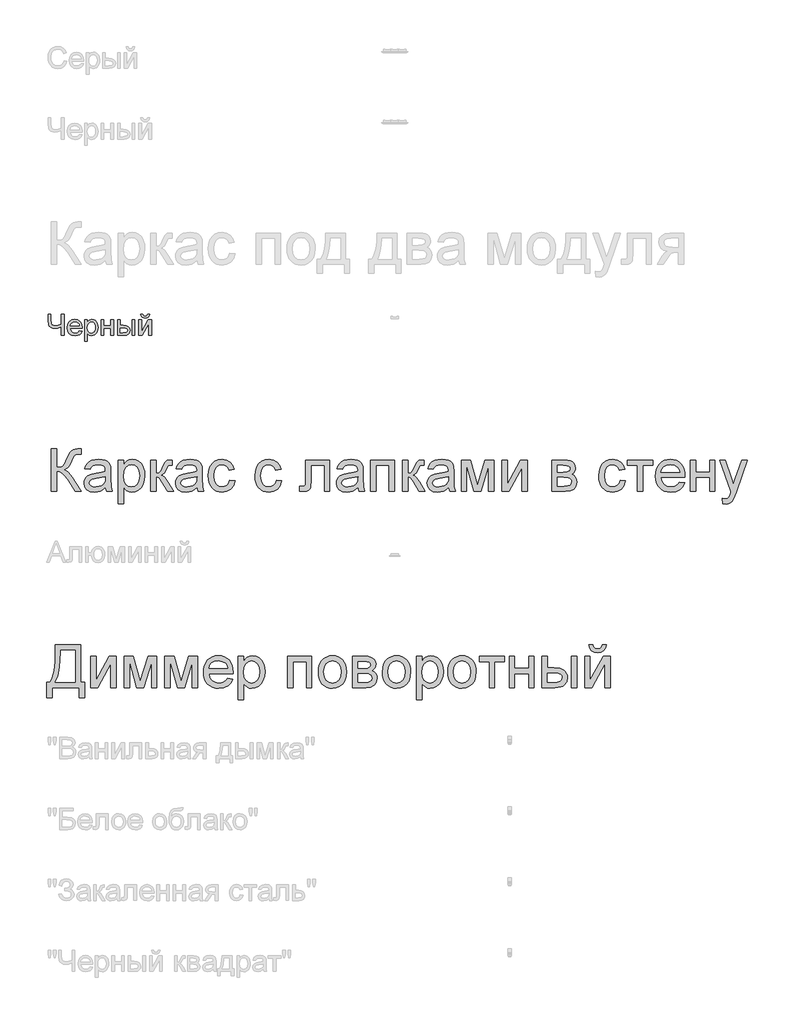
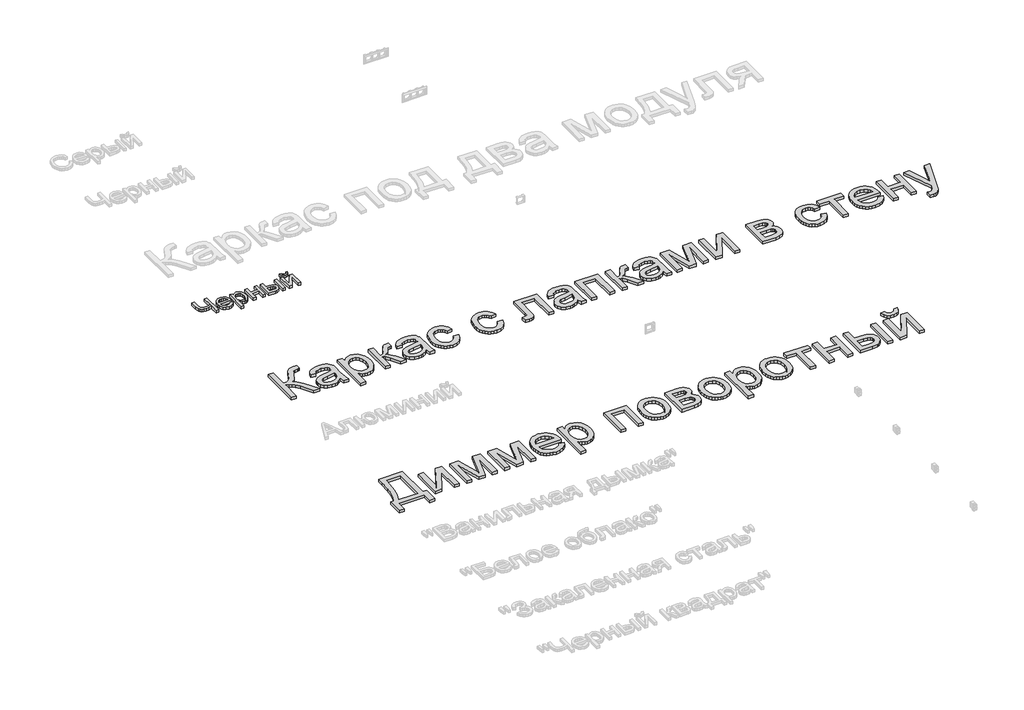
# One storey, part 36 of 168: 3 proxies.
"""IFC4 building model written with IfcOpenShell, lengths in millimetres."""

from ifc_helpers import new_model, si_unit, origin, origin_with_axes, place, context, project, spatial, polyline, outline, extrude, element, save

model = new_model("IFC4")

# Units and contexts
model_context = context("Model", 3, world=origin())
ifc_project = project(units=[si_unit("LENGTHUNIT", "METRE", prefix="MILLI")], contexts=[model_context])

# Site, building, storey
site = spatial("IfcSite", under=ifc_project)
building = spatial("IfcBuilding", under=site)
storey = spatial("IfcBuildingStorey", under=building, Name="Этаж 01", Elevation=0.0)

# Proxies
placement = place(None, origin())
element("IfcBuildingElementProxy", 1, Name="300 мм Arial 2", ObjectType="300 мм Arial 2", at=placement, inside=storey, context=model_context, shape_type="SweptSolid", body=[
    extrude(outline(polyline([(32899.0945017, -42181.2692868), (32936.765618, -42181.2692868), (32936.765618, -42313.1181939), (32962.2690373, -42310.6257934), (32978.8881064, -42303.1485918), (32992.3249963, -42285.5546354), (33008.2818778, -42252.7119703), (33029.0672106, -42210.5894818), (33039.0919949, -42199.1759429), (33052.6116582, -42189.7305727), (33068.6605103, -42183.3846083), (33086.2728608, -42181.2692868), (33110.9945309, -42181.7107452), (33110.9945309, -42219.3818615), (33102.6803978, -42219.1611323), (33094.3662647, -42218.9404031), (33077.1125991, -42221.2028774), (33064.9357051, -42227.9903002), (33054.4510682, -42242.2457275), (33042.5684798, -42266.7650625), (33027.9911557, -42297.2992681), (33015.8970351, -42314.0011107), (32989.8877781, -42329.5993073), (33004.4788977, -42335.807316), (33018.9688498, -42346.6322437), (33047.6452513, -42382.1328562), (33110.9945309, -42482.6382173), (33067.2901499, -42482.6382173), (33013.7265314, -42397.7310528), (32993.0423662, -42370.4985881), (32976.0186268, -42353.4012724), (32958.6086114, -42344.3789664), (32936.765618, -42341.3715311), (32936.765618, -42482.6382173), (32899.0945017, -42482.6382173), (32899.0945017, -42181.2692868)])), origin_with_axes(), (0.0, 0.0, 1.0), 20.0),
    extrude(outline(polyline([(33280.5145543, -42454.3848801), (33262.5159276, -42469.8175297), (33243.9838721, -42479.9158905), (33224.4953234, -42485.4893027), (33203.6272173, -42487.3471068), (33172.1457155, -42482.8773406), (33148.9231646, -42469.4680419), (33134.6033579, -42449.1057734), (33129.830089, -42423.7770981), (33131.6327108, -42408.1605074), (33137.0405761, -42393.9786564), (33145.3823004, -42381.8385506), (33155.9864989, -42372.3471951), (33182.3636379, -42359.9863601), (33214.9579827, -42354.3209774), (33253.4752276, -42348.361289), (33280.2938251, -42341.3715311), (33280.5145543, -42332.9838216), (33277.9209862, -42316.1716145), (33270.140282, -42305.1719428), (33252.7394636, -42297.0049625), (33228.4960401, -42294.2826358), (33206.0552384, -42296.0944546), (33190.3834654, -42301.5299111), (33179.6964935, -42311.5822866), (33172.2100949, -42327.2448625), (33134.5389786, -42322.535973), (33141.078081, -42301.9345812), (33150.836151, -42285.7477735), (33164.7236963, -42273.3685443), (33183.6512249, -42264.1898885), (33206.8001995, -42258.5061117), (33233.3520825, -42256.6115194), (33258.8187136, -42258.2853825), (33279.0062381, -42263.3069718), (33294.2273556, -42270.8577497), (33304.7947659, -42280.1191789), (33311.8029179, -42291.569506), (33316.3462606, -42305.6869776), (33318.1856706, -42338.6492044), (33318.1856706, -42385.5173706), (33320.0986569, -42450.9635775), (33327.6034496, -42482.6382173), (33289.9323333, -42482.6382173), (33280.5145543, -42454.3848801)]), holes=[polyline([(33280.5145543, -42379.0426474), (33219.7404487, -42390.5941421), (33187.3300449, -42396.7009832), (33172.6515533, -42406.6337971), (33167.5012053, -42421.1283477), (33170.3063056, -42432.3303544), (33178.7216062, -42441.5090102), (33192.5631663, -42447.6342454), (33211.6470448, -42449.6759905), (33231.8805545, -42447.4227133), (33249.7596195, -42440.6628816), (33264.2541701, -42430.7024766), (33274.3341367, -42418.8474793), (33278.803903, -42406.6337971), (33280.2938251, -42389.7112253), (33280.5145543, -42379.0426474)])]), origin_with_axes(), (0.0, 0.0, 1.0), 20.0),
    extrude(outline(polyline([(33369.9834555, -42567.398229), (33369.9834555, -42261.320409), (33407.6545718, -42261.320409), (33407.6545718, -42298.2557613), (33419.9418304, -42280.0364055), (33433.700617, -42267.0225799), (33449.740272, -42259.2142846), (33468.8701358, -42256.6115194), (33494.345964, -42260.2535512), (33516.6212188, -42271.1796465), (33534.7578011, -42288.7276176), (33547.817612, -42312.2352771), (33555.7086807, -42339.9919737), (33558.339037, -42370.287056), (33555.3683899, -42402.5043217), (33546.4564486, -42431.318679), (33531.8883216, -42455.2677968), (33511.9491174, -42472.8893444), (33488.7265665, -42483.7326662), (33464.308399, -42487.3471068), (33446.9903541, -42484.9282827), (33431.5301133, -42477.6718103), (33418.2955585, -42466.7181239), (33407.6545718, -42453.2076577), (33407.6545718, -42567.398229), (33369.9834555, -42567.398229)]), holes=[polyline([(33407.6545718, -42373.7451467), (33411.7288649, -42407.5167139), (33423.9517442, -42431.134738), (33441.987159, -42445.0406774), (33463.4990587, -42449.6759905), (33485.3604462, -42444.8751305), (33503.8557135, -42430.4725504), (33516.4648689, -42405.9900036), (33520.6679207, -42370.9492435), (33516.5660365, -42337.3616174), (33504.2603837, -42313.4124995), (33486.2525601, -42299.0651017), (33465.044163, -42294.2826358), (33443.7529926, -42299.3686043), (33425.0553902, -42314.6265101), (33412.0047764, -42339.5781064), (33407.6545718, -42373.7451467)])]), origin_with_axes(), (0.0, 0.0, 1.0), 20.0),
    extrude(outline(polyline([(33600.7190429, -42261.320409), (33638.3901592, -42261.320409), (33638.3901592, -42355.4981997), (33653.7124443, -42353.8059426), (33663.626864, -42348.729171), (33672.4008496, -42335.4854192), (33684.3018322, -42309.2922212), (33701.4819213, -42275.2631366), (33716.6386595, -42264.1898885), (33744.193021, -42261.320409), (33751.4035081, -42261.320409), (33751.4035081, -42299.2122545), (33741.249965, -42298.9915253), (33722.8558653, -42302.9646508), (33709.906419, -42327.7598973), (33694.7128926, -42354.5784948), (33673.4125251, -42367.711882), (33685.3502958, -42373.0139812), (33697.177702, -42382.3719795), (33720.5014205, -42413.255673), (33760.8212872, -42482.6382173), (33717.9998229, -42482.6382173), (33678.4892966, -42414.727201), (33658.6236689, -42385.9956171), (33649.3346485, -42380.7808899), (33638.3901592, -42379.0426474), (33638.3901592, -42482.6382173), (33600.7190429, -42482.6382173), (33600.7190429, -42261.320409)])), origin_with_axes(), (0.0, 0.0, 1.0), 20.0),
    extrude(outline(polyline([(33925.632421, -42454.3848801), (33907.6337944, -42469.8175297), (33889.1017389, -42479.9158905), (33869.6131902, -42485.4893027), (33848.745084, -42487.3471068), (33817.2635823, -42482.8773406), (33794.0410313, -42469.4680419), (33779.7212247, -42449.1057734), (33774.9479558, -42423.7770981), (33776.7505776, -42408.1605074), (33782.1584429, -42393.9786564), (33790.5001671, -42381.8385506), (33801.1043656, -42372.3471951), (33827.4815047, -42359.9863601), (33860.0758495, -42354.3209774), (33898.5930944, -42348.361289), (33925.4116918, -42341.3715311), (33925.632421, -42332.9838216), (33923.0388529, -42316.1716145), (33915.2581487, -42305.1719428), (33897.8573304, -42297.0049625), (33873.6139069, -42294.2826358), (33851.1731052, -42296.0944546), (33835.5013322, -42301.5299111), (33824.8143602, -42311.5822866), (33817.3279616, -42327.2448625), (33779.6568453, -42322.535973), (33786.1959478, -42301.9345812), (33795.9540177, -42285.7477735), (33809.841563, -42273.3685443), (33828.7690917, -42264.1898885), (33851.9180662, -42258.5061117), (33878.4699492, -42256.6115194), (33903.9365803, -42258.2853825), (33924.1241048, -42263.3069718), (33939.3452224, -42270.8577497), (33949.9126327, -42280.1191789), (33956.9207847, -42291.569506), (33961.4641273, -42305.6869776), (33963.3035373, -42338.6492044), (33963.3035373, -42385.5173706), (33965.2165237, -42450.9635775), (33972.7213164, -42482.6382173), (33935.0502001, -42482.6382173), (33925.632421, -42454.3848801)]), holes=[polyline([(33925.632421, -42379.0426474), (33864.8583154, -42390.5941421), (33832.4479116, -42396.7009832), (33817.76942, -42406.6337971), (33812.6190721, -42421.1283477), (33815.4241723, -42432.3303544), (33823.8394729, -42441.5090102), (33837.681033, -42447.6342454), (33856.7649115, -42449.6759905), (33876.9984212, -42447.4227133), (33894.8774862, -42440.6628816), (33909.3720368, -42430.7024766), (33919.4520035, -42418.8474793), (33923.9217697, -42406.6337971), (33925.4116918, -42389.7112253), (33925.632421, -42379.0426474)])]), origin_with_axes(), (0.0, 0.0, 1.0), 20.0),
    extrude(outline(polyline([(34156.3680084, -42402.5870951), (34194.0391247, -42407.2959847), (34183.5360937, -42440.8008374), (34163.7992247, -42466.1203157), (34136.6863216, -42482.040409), (34104.0551887, -42487.3471068), (34082.9272658, -42485.4962005), (34063.9836423, -42479.9434817), (34047.2243182, -42470.6889502), (34032.6492934, -42457.7326062), (34020.8517777, -42441.3181714), (34012.4249807, -42421.6893677), (34007.3689025, -42398.8461951), (34005.6835431, -42372.7886535), (34008.5622198, -42339.2654067), (34017.1982496, -42310.2119261), (34031.7295884, -42286.7502519), (34052.2941919, -42270.0024241), (34076.8963004, -42259.9592456), (34103.5401539, -42256.6115194), (34135.3711435, -42261.2100444), (34160.8193805, -42275.0056192), (34179.0755245, -42297.2624799), (34189.3302351, -42327.2448625), (34151.6591188, -42331.9537521), (34144.8257108, -42315.5186239), (34134.1847241, -42303.737203), (34120.3247699, -42296.6462776), (34103.8344595, -42294.2826358), (34079.4898684, -42298.936343), (34060.1668666, -42312.8974647), (34047.5577113, -42336.920159), (34043.3546595, -42371.7585839), (34047.4657408, -42407.0660584), (34059.7989846, -42431.1715262), (34078.7724985, -42445.0498744), (34102.8043899, -42449.6759905), (34122.3113327, -42446.7881169), (34138.3050024, -42438.1244959), (34149.9392705, -42423.4643984), (34156.3680084, -42402.5870951)])), origin_with_axes(), (0.0, 0.0, 1.0), 20.0),
    extrude(outline(polyline([(34485.9902761, -42402.5870951), (34523.6613924, -42407.2959847), (34513.1583614, -42440.8008374), (34493.4214924, -42466.1203157), (34466.3085893, -42482.040409), (34433.6774563, -42487.3471068), (34412.5495335, -42485.4962005), (34393.60591, -42479.9434817), (34376.8465859, -42470.6889502), (34362.2715611, -42457.7326062), (34350.4740453, -42441.3181714), (34342.0472484, -42421.6893677), (34336.9911702, -42398.8461951), (34335.3058108, -42372.7886535), (34338.1844874, -42339.2654067), (34346.8205173, -42310.2119261), (34361.3518561, -42286.7502519), (34381.9164596, -42270.0024241), (34406.518568, -42259.9592456), (34433.1624215, -42256.6115194), (34464.9934112, -42261.2100444), (34490.4416482, -42275.0056192), (34508.6977922, -42297.2624799), (34518.9525028, -42327.2448625), (34481.2813865, -42331.9537521), (34474.4479785, -42315.5186239), (34463.8069917, -42303.737203), (34449.9470376, -42296.6462776), (34433.4567271, -42294.2826358), (34409.1121361, -42298.936343), (34389.7891343, -42312.8974647), (34377.1799789, -42336.920159), (34372.9769271, -42371.7585839), (34377.0880084, -42407.0660584), (34389.4212523, -42431.1715262), (34408.3947662, -42445.0498744), (34432.4266576, -42449.6759905), (34451.9336003, -42446.7881169), (34467.9272701, -42438.1244959), (34479.5615382, -42423.4643984), (34485.9902761, -42402.5870951)])), origin_with_axes(), (0.0, 0.0, 1.0), 20.0),
    extrude(outline(polyline([(34693.1814157, -42261.320409), (34862.7014391, -42261.320409), (34862.7014391, -42482.4174881), (34825.0303228, -42482.4174881), (34825.0303228, -42298.9915253), (34730.852532, -42298.9915253), (34730.852532, -42404.5736579), (34728.3141463, -42453.2812341), (34723.5592715, -42464.3084969), (34714.3714187, -42473.8458376), (34700.428691, -42480.4401224), (34681.4091919, -42482.6382173), (34650.8014099, -42480.7252309), (34650.8014099, -42444.967101), (34667.6504053, -42444.967101), (34684.6833416, -42442.6494444), (34691.4891586, -42435.2918045), (34693.1814157, -42402.4399423), (34693.1814157, -42261.320409)])), origin_with_axes(), (0.0, 0.0, 1.0), 20.0),
    extrude(outline(polyline([(35060.4747997, -42454.3848801), (35042.4761731, -42469.8175297), (35023.9441176, -42479.9158905), (35004.4555689, -42485.4893027), (34983.5874627, -42487.3471068), (34952.105961, -42482.8773406), (34928.88341, -42469.4680419), (34914.5636034, -42449.1057734), (34909.7903345, -42423.7770981), (34911.5929563, -42408.1605074), (34917.0008216, -42393.9786564), (34925.3425458, -42381.8385506), (34935.9467444, -42372.3471951), (34962.3238834, -42359.9863601), (34994.9182282, -42354.3209774), (35033.4354731, -42348.361289), (35060.2540705, -42341.3715311), (35060.4747997, -42332.9838216), (35057.8812317, -42316.1716145), (35050.1005275, -42305.1719428), (35032.6997091, -42297.0049625), (35008.4562856, -42294.2826358), (34986.0154839, -42296.0944546), (34970.3437109, -42301.5299111), (34959.6567389, -42311.5822866), (34952.1703403, -42327.2448625), (34914.499224, -42322.535973), (34921.0383265, -42301.9345812), (34930.7963964, -42285.7477735), (34944.6839417, -42273.3685443), (34963.6114704, -42264.1898885), (34986.7604449, -42258.5061117), (35013.3123279, -42256.6115194), (35038.7789591, -42258.2853825), (35058.9664835, -42263.3069718), (35074.1876011, -42270.8577497), (35084.7550114, -42280.1191789), (35091.7631634, -42291.569506), (35096.3065061, -42305.6869776), (35098.145916, -42338.6492044), (35098.145916, -42385.5173706), (35100.0589024, -42450.9635775), (35107.5636951, -42482.6382173), (35069.8925788, -42482.6382173), (35060.4747997, -42454.3848801)]), holes=[polyline([(35060.4747997, -42379.0426474), (34999.7006941, -42390.5941421), (34967.2902903, -42396.7009832), (34952.6117987, -42406.6337971), (34947.4614508, -42421.1283477), (34950.266551, -42432.3303544), (34958.6818517, -42441.5090102), (34972.5234117, -42447.6342454), (34991.6072902, -42449.6759905), (35011.8408, -42447.4227133), (35029.7198649, -42440.6628816), (35044.2144155, -42430.7024766), (35054.2943822, -42418.8474793), (35058.7641484, -42406.6337971), (35060.2540705, -42389.7112253), (35060.4747997, -42379.0426474)])]), origin_with_axes(), (0.0, 0.0, 1.0), 20.0),
    extrude(outline(polyline([(35149.9437009, -42261.320409), (35319.4637243, -42261.320409), (35319.4637243, -42482.6382173), (35281.792608, -42482.6382173), (35281.792608, -42298.9915253), (35187.6148173, -42298.9915253), (35187.6148173, -42482.6382173), (35149.9437009, -42482.6382173), (35149.9437009, -42261.320409)])), origin_with_axes(), (0.0, 0.0, 1.0), 20.0),
    extrude(outline(polyline([(35375.9703988, -42261.320409), (35413.6415151, -42261.320409), (35413.6415151, -42355.4981997), (35428.9638002, -42353.8059426), (35438.87822, -42348.729171), (35447.6522055, -42335.4854192), (35459.5531881, -42309.2922212), (35476.7332773, -42275.2631366), (35491.8900155, -42264.1898885), (35519.4443769, -42261.320409), (35526.654864, -42261.320409), (35526.654864, -42299.2122545), (35516.5013209, -42298.9915253), (35498.1072212, -42302.9646508), (35485.157775, -42327.7598973), (35469.9642486, -42354.5784948), (35448.663881, -42367.711882), (35460.6016518, -42373.0139812), (35472.4290579, -42382.3719795), (35495.7527764, -42413.255673), (35536.0726431, -42482.6382173), (35493.2511788, -42482.6382173), (35453.7406526, -42414.727201), (35433.8750248, -42385.9956171), (35424.5860044, -42380.7808899), (35413.6415151, -42379.0426474), (35413.6415151, -42482.6382173), (35375.9703988, -42482.6382173), (35375.9703988, -42261.320409)])), origin_with_axes(), (0.0, 0.0, 1.0), 20.0),
    extrude(outline(polyline([(35700.8837769, -42454.3848801), (35682.8851503, -42469.8175297), (35664.3530948, -42479.9158905), (35644.8645461, -42485.4893027), (35623.9964399, -42487.3471068), (35592.5149382, -42482.8773406), (35569.2923872, -42469.4680419), (35554.9725806, -42449.1057734), (35550.1993117, -42423.7770981), (35552.0019335, -42408.1605074), (35557.4097988, -42393.9786564), (35565.751523, -42381.8385506), (35576.3557216, -42372.3471951), (35602.7328606, -42359.9863601), (35635.3272054, -42354.3209774), (35673.8444503, -42348.361289), (35700.6630477, -42341.3715311), (35700.8837769, -42332.9838216), (35698.2902089, -42316.1716145), (35690.5095047, -42305.1719428), (35673.1086863, -42297.0049625), (35648.8652628, -42294.2826358), (35626.4244611, -42296.0944546), (35610.7526881, -42301.5299111), (35600.0657161, -42311.5822866), (35592.5793175, -42327.2448625), (35554.9082012, -42322.535973), (35561.4473037, -42301.9345812), (35571.2053736, -42285.7477735), (35585.0929189, -42273.3685443), (35604.0204476, -42264.1898885), (35627.1694221, -42258.5061117), (35653.7213051, -42256.6115194), (35679.1879363, -42258.2853825), (35699.3754607, -42263.3069718), (35714.5965783, -42270.8577497), (35725.1639886, -42280.1191789), (35732.1721406, -42291.569506), (35736.7154833, -42305.6869776), (35738.5548932, -42338.6492044), (35738.5548932, -42385.5173706), (35740.4678796, -42450.9635775), (35747.9726723, -42482.6382173), (35710.301556, -42482.6382173), (35700.8837769, -42454.3848801)]), holes=[polyline([(35700.8837769, -42379.0426474), (35640.1096713, -42390.5941421), (35607.6992675, -42396.7009832), (35593.0207759, -42406.6337971), (35587.870428, -42421.1283477), (35590.6755282, -42432.3303544), (35599.0908289, -42441.5090102), (35612.9323889, -42447.6342454), (35632.0162674, -42449.6759905), (35652.2497772, -42447.4227133), (35670.1288421, -42440.6628816), (35684.6233927, -42430.7024766), (35694.7033594, -42418.8474793), (35699.1731256, -42406.6337971), (35700.6630477, -42389.7112253), (35700.8837769, -42379.0426474)])]), origin_with_axes(), (0.0, 0.0, 1.0), 20.0),
    extrude(outline(polyline([(35790.3526782, -42261.320409), (35855.1734857, -42261.320409), (35905.1318606, -42438.4923779), (35958.9897847, -42261.320409), (36021.0882655, -42261.320409), (36021.0882655, -42482.6382173), (35983.4171492, -42482.6382173), (35983.4171492, -42304.4361788), (35929.2649195, -42482.6382173), (35879.8215794, -42482.6382173), (35828.0237945, -42295.9013165), (35828.0237945, -42482.6382173), (35790.3526782, -42482.6382173), (35790.3526782, -42261.320409)])), origin_with_axes(), (0.0, 0.0, 1.0), 20.0),
    extrude(outline(polyline([(36077.59494, -42261.320409), (36115.2660563, -42261.320409), (36115.2660563, -42430.1046684), (36207.8251663, -42261.320409), (36256.5327424, -42261.320409), (36256.5327424, -42482.6382173), (36218.8616261, -42482.6382173), (36218.8616261, -42314.8840275), (36126.8911273, -42482.6382173), (36077.59494, -42482.6382173), (36077.59494, -42261.320409)])), origin_with_axes(), (0.0, 0.0, 1.0), 20.0),
    extrude(outline(polyline([(36430.7616554, -42261.320409), (36513.7558335, -42261.320409), (36540.4364752, -42262.5804048), (36559.2628363, -42266.3603923), (36573.1135934, -42273.497303), (36584.8674231, -42284.8280685), (36592.8964477, -42299.5893335), (36595.5727892, -42317.0177431), (36593.9541084, -42331.0616382), (36589.0980661, -42343.1741529), (36580.9862681, -42353.4104694), (36569.6003203, -42361.8257701), (36583.543048, -42369.6524595), (36594.9106016, -42382.2432208), (36602.4705766, -42398.6047725), (36604.9905683, -42417.7438333), (36598.6078157, -42446.4570231), (36583.4326834, -42466.6721387), (36559.4099891, -42478.6466976), (36526.4845505, -42482.6382173), (36430.7616554, -42482.6382173), (36430.7616554, -42261.320409)]), holes=[polyline([(36468.4327717, -42346.0804207), (36505.6624296, -42346.0804207), (36536.3805762, -42344.1674343), (36551.3165852, -42336.5154888), (36556.255401, -42330.1879185), (36557.9016729, -42322.6831258), (36555.0137992, -42311.4443308), (36546.3501782, -42304.2154496), (36530.6967993, -42300.2975064), (36506.839652, -42298.9915253), (36468.4327717, -42298.9915253), (36468.4327717, -42346.0804207)]), polyline([(36468.4327717, -42444.967101), (36514.6387503, -42444.967101), (36539.8202728, -42443.2656467), (36555.6208045, -42438.1612841), (36564.1004845, -42428.8814607), (36567.319452, -42414.6536246), (36565.7099682, -42405.2266484), (36560.881517, -42396.5170422), (36553.4686948, -42389.7020282), (36544.1060981, -42385.9588289), (36510.9599303, -42383.751537), (36468.4327717, -42383.751537), (36468.4327717, -42444.967101)])]), origin_with_axes(), (0.0, 0.0, 1.0), 20.0),
    extrude(outline(polyline([(36911.0683883, -42402.5870951), (36948.7395046, -42407.2959847), (36938.2364736, -42440.8008374), (36918.4996046, -42466.1203157), (36891.3867015, -42482.040409), (36858.7555685, -42487.3471068), (36837.6276457, -42485.4962005), (36818.6840222, -42479.9434817), (36801.9246981, -42470.6889502), (36787.3496733, -42457.7326062), (36775.5521575, -42441.3181714), (36767.1253606, -42421.6893677), (36762.0692824, -42398.8461951), (36760.383923, -42372.7886535), (36763.2625996, -42339.2654067), (36771.8986295, -42310.2119261), (36786.4299683, -42286.7502519), (36806.9945718, -42270.0024241), (36831.5966802, -42259.9592456), (36858.2405338, -42256.6115194), (36890.0715234, -42261.2100444), (36915.5197604, -42275.0056192), (36933.7759044, -42297.2624799), (36944.030615, -42327.2448625), (36906.3594987, -42331.9537521), (36899.5260907, -42315.5186239), (36888.8851039, -42303.737203), (36875.0251498, -42296.6462776), (36858.5348393, -42294.2826358), (36834.1902483, -42298.936343), (36814.8672465, -42312.8974647), (36802.2580911, -42336.920159), (36798.0550393, -42371.7585839), (36802.1661206, -42407.0660584), (36814.4993645, -42431.1715262), (36833.4728784, -42445.0498744), (36857.5047698, -42449.6759905), (36877.0117126, -42446.7881169), (36893.0053823, -42438.1244959), (36904.6396504, -42423.4643984), (36911.0683883, -42402.5870951)])), origin_with_axes(), (0.0, 0.0, 1.0), 20.0),
    extrude(outline(polyline([(36962.8661732, -42261.320409), (37141.8039756, -42261.320409), (37141.8039756, -42298.9915253), (37071.1706326, -42298.9915253), (37071.1706326, -42482.6382173), (37033.4995163, -42482.6382173), (37033.4995163, -42298.9915253), (36962.8661732, -42298.9915253), (36962.8661732, -42261.320409)])), origin_with_axes(), (0.0, 0.0, 1.0), 20.0),
    extrude(outline(polyline([(37329.7180988, -42416.7137637), (37366.6534511, -42421.4226533), (37353.3453199, -42449.2529262), (37332.1093317, -42470.056653), (37303.4237332, -42483.0244934), (37267.7667708, -42487.3471068), (37244.3924685, -42485.482405), (37223.5657491, -42479.8882994), (37205.2866124, -42470.5647901), (37189.5550586, -42457.511877), (37176.9045165, -42441.0928437), (37167.868415, -42421.6709736), (37162.4467541, -42399.2462668), (37160.6395338, -42373.8187231), (37162.4651482, -42347.528956), (37167.9419914, -42324.3569889), (37177.0700634, -42304.3028216), (37189.8493642, -42287.3664542), (37205.5395313, -42273.9111703), (37223.4002022, -42264.3002531), (37243.4313768, -42258.5337029), (37265.6330552, -42256.6115194), (37287.119663, -42258.5291043), (37306.5507301, -42264.281859), (37323.9262566, -42273.8697835), (37339.2462424, -42287.2928778), (37351.751931, -42304.192457), (37360.6845657, -42324.2098361), (37366.0441465, -42347.345015), (37367.8306735, -42373.5979939), (37367.6099443, -42383.751537), (37198.3106501, -42383.751537), (37204.8313585, -42411.9496919), (37219.9788996, -42432.6798423), (37241.8402872, -42445.4269535), (37268.5025348, -42449.6759905), (37288.5521035, -42447.7078218), (37305.4378871, -42441.8033158), (37319.1598855, -42431.5945904), (37329.7180988, -42416.7137637)]), holes=[polyline([(37198.3106501, -42346.0804207), (37330.1595572, -42346.0804207), (37325.0643915, -42326.1780047), (37315.0763954, -42311.9409715), (37293.1138402, -42298.6972197), (37265.4859024, -42294.2826358), (37240.0928477, -42297.8051059), (37219.0959828, -42308.3725162), (37204.5002647, -42324.8444325), (37198.3106501, -42346.0804207)])]), origin_with_axes(), (0.0, 0.0, 1.0), 20.0),
    extrude(outline(polyline([(37405.5017898, -42261.320409), (37443.1729061, -42261.320409), (37443.1729061, -42346.0804207), (37542.0595864, -42346.0804207), (37542.0595864, -42261.320409), (37579.7307027, -42261.320409), (37579.7307027, -42482.6382173), (37542.0595864, -42482.6382173), (37542.0595864, -42383.751537), (37443.1729061, -42383.751537), (37443.1729061, -42482.6382173), (37405.5017898, -42482.6382173), (37405.5017898, -42261.320409)])), origin_with_axes(), (0.0, 0.0, 1.0), 20.0),
    extrude(outline(polyline([(37636.2373772, -42567.398229), (37631.5284876, -42531.1250642), (37650.6583514, -42534.4360022), (37668.5374163, -42530.2789357), (37679.5002998, -42518.6906528), (37689.8009956, -42490.9523504), (37692.7440516, -42481.8288769), (37612.6929295, -42261.320409), (37652.4241849, -42261.320409), (37694.8777672, -42384.1929954), (37709.6666234, -42433.3420299), (37724.4554796, -42389.9319545), (37768.0862842, -42261.320409), (37807.5232341, -42261.320409), (37730.4887443, -42487.935718), (37710.4759638, -42537.0847526), (37700.2304502, -42552.7749197), (37688.6237733, -42563.6458326), (37675.1408981, -42569.991797), (37659.26679, -42572.1071185), (37636.2373772, -42567.398229)])), origin_with_axes(), (0.0, 0.0, 1.0), 20.0),
])
element("IfcBuildingElementProxy", 2, Name="300 мм Arial 2", ObjectType="300 мм Arial 2", at=placement, inside=storey, context=model_context, shape_type="SweptSolid", body=[
    extrude(outline(polyline([(32927.3478389, -43564.4244707), (33106.2856413, -43564.4244707), (33106.2856413, -43828.1222849), (33134.5389786, -43828.1222849), (33134.5389786, -43936.4267443), (33096.8678623, -43936.4267443), (33096.8678623, -43865.7934012), (32903.8033912, -43865.7934012), (32903.8033912, -43936.4267443), (32866.1322749, -43936.4267443), (32866.1322749, -43828.1222849), (32889.6767226, -43828.1222849), (32906.157836, -43793.9506461), (32917.9300598, -43745.8822649), (32924.9933941, -43683.9171413), (32927.3478389, -43608.0552754), (32927.3478389, -43564.4244707)]), holes=[polyline([(33068.614525, -43602.095587), (32965.0189552, -43602.095587), (32965.0189552, -43617.2523252), (32957.3670097, -43720.4800131), (32946.0362442, -43780.1320786), (32927.3478389, -43828.1222849), (33068.614525, -43828.1222849), (33068.614525, -43602.095587)])]), origin_with_axes(), (0.0, 0.0, 1.0), 20.0),
    extrude(outline(polyline([(33176.9189844, -43644.4755929), (33214.5901007, -43644.4755929), (33214.5901007, -43813.2598523), (33307.1492107, -43644.4755929), (33355.8567869, -43644.4755929), (33355.8567869, -43865.7934012), (33318.1856706, -43865.7934012), (33318.1856706, -43698.0392114), (33226.2151718, -43865.7934012), (33176.9189844, -43865.7934012), (33176.9189844, -43644.4755929)])), origin_with_axes(), (0.0, 0.0, 1.0), 20.0),
    extrude(outline(polyline([(33412.3634613, -43644.4755929), (33477.1842689, -43644.4755929), (33527.1426438, -43821.6475618), (33581.0005679, -43644.4755929), (33643.0990487, -43644.4755929), (33643.0990487, -43865.7934012), (33605.4279324, -43865.7934012), (33605.4279324, -43687.5913627), (33551.2757027, -43865.7934012), (33501.8323626, -43865.7934012), (33450.0345776, -43679.0565004), (33450.0345776, -43865.7934012), (33412.3634613, -43865.7934012), (33412.3634613, -43644.4755929)])), origin_with_axes(), (0.0, 0.0, 1.0), 20.0),
    extrude(outline(polyline([(33699.6057232, -43644.4755929), (33764.4265307, -43644.4755929), (33814.3849057, -43821.6475618), (33868.2428298, -43644.4755929), (33930.3413105, -43644.4755929), (33930.3413105, -43865.7934012), (33892.6701942, -43865.7934012), (33892.6701942, -43687.5913627), (33838.5179645, -43865.7934012), (33789.0746244, -43865.7934012), (33737.2768395, -43679.0565004), (33737.2768395, -43865.7934012), (33699.6057232, -43865.7934012), (33699.6057232, -43644.4755929)])), origin_with_axes(), (0.0, 0.0, 1.0), 20.0),
    extrude(outline(polyline([(34141.7998814, -43799.8689477), (34178.7352337, -43804.5778372), (34165.4271025, -43832.4081101), (34144.1911143, -43853.211837), (34115.5055158, -43866.1796773), (34079.8485534, -43870.5022907), (34056.4742511, -43868.6375889), (34035.6475317, -43863.0434833), (34017.368395, -43853.719974), (34001.6368412, -43840.6670609), (33988.9862991, -43824.2480276), (33979.9501976, -43804.8261575), (33974.5285367, -43782.4014507), (33972.7213164, -43756.973907), (33974.5469308, -43730.6841399), (33980.023774, -43707.5121728), (33989.151846, -43687.4580055), (34001.9311468, -43670.5216382), (34017.6213139, -43657.0663542), (34035.4819848, -43647.4554371), (34055.5131594, -43641.6888868), (34077.7148378, -43639.7667034), (34099.2014456, -43641.6842883), (34118.6325127, -43647.437043), (34136.0080392, -43657.0249675), (34151.328025, -43670.4480618), (34163.8337136, -43687.3476409), (34172.7663483, -43707.36502), (34178.1259291, -43730.5001989), (34179.9124561, -43756.7531778), (34179.6917269, -43766.9067209), (34010.3924327, -43766.9067209), (34016.9131411, -43795.1048758), (34032.0606822, -43815.8350262), (34053.9220698, -43828.5821374), (34080.5843174, -43832.8311744), (34100.6338861, -43830.8630057), (34117.5196697, -43824.9584997), (34131.2416681, -43814.7497744), (34141.7998814, -43799.8689477)]), holes=[polyline([(34010.3924327, -43729.2356046), (34142.2413398, -43729.2356046), (34137.1461741, -43709.3331886), (34127.158178, -43695.0961554), (34105.1956228, -43681.8524036), (34077.567685, -43677.4378197), (34052.1746303, -43680.9602898), (34031.1777654, -43691.5277001), (34016.5820473, -43707.9996164), (34010.3924327, -43729.2356046)])]), origin_with_axes(), (0.0, 0.0, 1.0), 20.0),
    extrude(outline(polyline([(34217.5835724, -43950.5534129), (34217.5835724, -43644.4755929), (34255.2546887, -43644.4755929), (34255.2546887, -43681.4109452), (34267.5419473, -43663.1915894), (34281.3007339, -43650.1777638), (34297.3403889, -43642.3694685), (34316.4702527, -43639.7667034), (34341.9460808, -43643.4087351), (34364.2213356, -43654.3348304), (34382.357918, -43671.8828015), (34395.4177288, -43695.390461), (34403.3087976, -43723.1471576), (34405.9391539, -43753.4422399), (34402.9685068, -43785.6595056), (34394.0565655, -43814.4738629), (34379.4884384, -43838.4229807), (34359.5492343, -43856.0445283), (34336.3266834, -43866.8878501), (34311.9085159, -43870.5022907), (34294.590471, -43868.0834666), (34279.1302302, -43860.8269943), (34265.8956754, -43849.8733078), (34255.2546887, -43836.3628416), (34255.2546887, -43950.5534129), (34217.5835724, -43950.5534129)]), holes=[polyline([(34255.2546887, -43756.9003306), (34259.3289818, -43790.6718978), (34271.5518611, -43814.2899219), (34289.5872759, -43828.1958613), (34311.0991755, -43832.8311744), (34332.9605631, -43828.0303144), (34351.4558304, -43813.6277343), (34364.0649858, -43789.1451875), (34368.2680376, -43754.1044275), (34364.1661533, -43720.5168013), (34351.8605006, -43696.5676834), (34333.8526769, -43682.2202856), (34312.6442799, -43677.4378197), (34291.3531095, -43682.5237882), (34272.655507, -43697.781694), (34259.6048933, -43722.7332903), (34255.2546887, -43756.9003306)])]), origin_with_axes(), (0.0, 0.0, 1.0), 20.0),
    extrude(outline(polyline([(34566.0413982, -43644.4755929), (34735.5614216, -43644.4755929), (34735.5614216, -43865.7934012), (34697.8903053, -43865.7934012), (34697.8903053, -43682.1467092), (34603.7125145, -43682.1467092), (34603.7125145, -43865.7934012), (34566.0413982, -43865.7934012), (34566.0413982, -43644.4755929)])), origin_with_axes(), (0.0, 0.0, 1.0), 20.0),
    extrude(outline(polyline([(34782.650317, -43755.134497), (34784.6874635, -43726.4718911), (34790.7989032, -43701.7732136), (34800.9846359, -43681.0384647), (34815.2446617, -43664.2676442), (34829.6012566, -43653.5484826), (34845.4477735, -43645.8919386), (34862.7842126, -43641.2980122), (34881.6105737, -43639.7667034), (34902.3936071, -43641.6314052), (34921.1854793, -43647.2255108), (34937.9861902, -43656.5490201), (34952.7957397, -43669.6019332), (34964.8829625, -43685.9427915), (34973.5166931, -43705.1301368), (34978.6969315, -43727.1639691), (34980.4236776, -43752.0442883), (34977.370257, -43790.1016807), (34968.2099953, -43819.0723878), (34953.209607, -43840.7682285), (34932.6358064, -43857.0010215), (34908.1992449, -43867.1269734), (34881.6105737, -43870.5022907), (34860.5240376, -43868.6444867), (34841.5574214, -43863.0710744), (34824.7107253, -43853.782054), (34809.9839492, -43840.7774255), (34798.0254851, -43824.277918), (34789.483725, -43804.5042608), (34784.358669, -43781.4564538), (34782.650317, -43755.134497)]), holes=[polyline([(34820.3214333, -43755.0609206), (34824.6808349, -43789.1543845), (34837.7590398, -43813.4437933), (34857.4407266, -43827.9843291), (34881.6105737, -43832.8311744), (34905.6700562, -43827.956738), (34925.3149547, -43813.3334287), (34938.3931596, -43788.7221232), (34942.7525613, -43753.8836983), (34938.3655685, -43720.7835157), (34925.2045901, -43696.8252008), (34905.5321004, -43682.2846649), (34881.6105737, -43677.4378197), (34857.4407266, -43682.2662708), (34837.7590398, -43696.7516244), (34824.6808349, -43720.9858508), (34820.3214333, -43755.0609206)])]), origin_with_axes(), (0.0, 0.0, 1.0), 20.0),
    extrude(outline(polyline([(35022.8036834, -43644.4755929), (35105.7978615, -43644.4755929), (35132.4785032, -43645.7355887), (35151.3048643, -43649.5155762), (35165.1556214, -43656.6524869), (35176.9094512, -43667.9832524), (35184.9384757, -43682.7445174), (35187.6148173, -43700.172927), (35185.9961365, -43714.2168221), (35181.1400941, -43726.3293368), (35173.0282961, -43736.5656533), (35161.6423484, -43744.980954), (35175.585076, -43752.8076434), (35186.9526297, -43765.3984047), (35194.5126047, -43781.7599564), (35197.0325963, -43800.8990172), (35190.6498437, -43829.612207), (35175.4747114, -43849.8273226), (35151.4520171, -43861.8018815), (35118.5265786, -43865.7934012), (35022.8036834, -43865.7934012), (35022.8036834, -43644.4755929)]), holes=[polyline([(35060.4747997, -43729.2356046), (35097.7044576, -43729.2356046), (35128.4226042, -43727.3226182), (35143.3586132, -43719.6706727), (35148.297429, -43713.3431024), (35149.9437009, -43705.8383097), (35147.0558273, -43694.5995147), (35138.3922063, -43687.3706335), (35122.7388274, -43683.4526903), (35098.88168, -43682.1467092), (35060.4747997, -43682.1467092), (35060.4747997, -43729.2356046)]), polyline([(35060.4747997, -43828.1222849), (35106.6807783, -43828.1222849), (35131.8623009, -43826.4208307), (35147.6628326, -43821.316468), (35156.1425126, -43812.0366446), (35159.36148, -43797.8088085), (35157.7519963, -43788.3818324), (35152.9235451, -43779.6722261), (35145.5107229, -43772.8572122), (35136.1481261, -43769.1140129), (35103.0019584, -43766.9067209), (35060.4747997, -43766.9067209), (35060.4747997, -43828.1222849)])]), origin_with_axes(), (0.0, 0.0, 1.0), 20.0),
    extrude(outline(polyline([(35234.7037126, -43755.134497), (35236.7408592, -43726.4718911), (35242.8522988, -43701.7732136), (35253.0380316, -43681.0384647), (35267.2980574, -43664.2676442), (35281.6546523, -43653.5484826), (35297.5011692, -43645.8919386), (35314.8376082, -43641.2980122), (35333.6639693, -43639.7667034), (35354.4470028, -43641.6314052), (35373.238875, -43647.2255108), (35390.0395858, -43656.5490201), (35404.8491354, -43669.6019332), (35416.9363582, -43685.9427915), (35425.5700888, -43705.1301368), (35430.7503271, -43727.1639691), (35432.4770732, -43752.0442883), (35429.4236527, -43790.1016807), (35420.263391, -43819.0723878), (35405.2630027, -43840.7682285), (35384.6892021, -43857.0010215), (35360.2526405, -43867.1269734), (35333.6639693, -43870.5022907), (35312.5774332, -43868.6444867), (35293.6108171, -43863.0710744), (35276.764121, -43853.782054), (35262.0373449, -43840.7774255), (35250.0788808, -43824.277918), (35241.5371207, -43804.5042608), (35236.4120647, -43781.4564538), (35234.7037126, -43755.134497)]), holes=[polyline([(35272.3748289, -43755.0609206), (35276.7342306, -43789.1543845), (35289.8124355, -43813.4437933), (35309.4941223, -43827.9843291), (35333.6639693, -43832.8311744), (35357.7234518, -43827.956738), (35377.3683504, -43813.3334287), (35390.4465553, -43788.7221232), (35394.8059569, -43753.8836983), (35390.4189641, -43720.7835157), (35377.2579858, -43696.8252008), (35357.5854961, -43682.2846649), (35333.6639693, -43677.4378197), (35309.4941223, -43682.2662708), (35289.8124355, -43696.7516244), (35276.7342306, -43720.9858508), (35272.3748289, -43755.0609206)])]), origin_with_axes(), (0.0, 0.0, 1.0), 20.0),
    extrude(outline(polyline([(35474.8570791, -43950.5534129), (35474.8570791, -43644.4755929), (35512.5281954, -43644.4755929), (35512.5281954, -43681.4109452), (35524.815454, -43663.1915894), (35538.5742407, -43650.1777638), (35554.6138956, -43642.3694685), (35573.7437594, -43639.7667034), (35599.2195876, -43643.4087351), (35621.4948424, -43654.3348304), (35639.6314247, -43671.8828015), (35652.6912356, -43695.390461), (35660.5823044, -43723.1471576), (35663.2126606, -43753.4422399), (35660.2420135, -43785.6595056), (35651.3300722, -43814.4738629), (35636.7619452, -43838.4229807), (35616.822741, -43856.0445283), (35593.6001901, -43866.8878501), (35569.1820227, -43870.5022907), (35551.8639777, -43868.0834666), (35536.4037369, -43860.8269943), (35523.1691821, -43849.8733078), (35512.5281954, -43836.3628416), (35512.5281954, -43950.5534129), (35474.8570791, -43950.5534129)]), holes=[polyline([(35512.5281954, -43756.9003306), (35516.6024885, -43790.6718978), (35528.8253678, -43814.2899219), (35546.8607826, -43828.1958613), (35568.3726823, -43832.8311744), (35590.2340698, -43828.0303144), (35608.7293371, -43813.6277343), (35621.3384925, -43789.1451875), (35625.5415443, -43754.1044275), (35621.4396601, -43720.5168013), (35609.1340073, -43696.5676834), (35591.1261837, -43682.2202856), (35569.9177866, -43677.4378197), (35548.6266162, -43682.5237882), (35529.9290138, -43697.781694), (35516.8784, -43722.7332903), (35512.5281954, -43756.9003306)])]), origin_with_axes(), (0.0, 0.0, 1.0), 20.0),
    extrude(outline(polyline([(35696.1748874, -43755.134497), (35698.2120339, -43726.4718911), (35704.3234736, -43701.7732136), (35714.5092063, -43681.0384647), (35728.7692322, -43664.2676442), (35743.125827, -43653.5484826), (35758.972344, -43645.8919386), (35776.308783, -43641.2980122), (35795.1351441, -43639.7667034), (35815.9181776, -43641.6314052), (35834.7100497, -43647.2255108), (35851.5107606, -43656.5490201), (35866.3203102, -43669.6019332), (35878.407533, -43685.9427915), (35887.0412635, -43705.1301368), (35892.2215019, -43727.1639691), (35893.948248, -43752.0442883), (35890.8948274, -43790.1016807), (35881.7345658, -43819.0723878), (35866.7341774, -43840.7682285), (35846.1603768, -43857.0010215), (35821.7238153, -43867.1269734), (35795.1351441, -43870.5022907), (35774.048608, -43868.6444867), (35755.0819919, -43863.0710744), (35738.2352957, -43853.782054), (35723.5085196, -43840.7774255), (35711.5500555, -43824.277918), (35703.0082954, -43804.5042608), (35697.8832394, -43781.4564538), (35696.1748874, -43755.134497)]), holes=[polyline([(35733.8460037, -43755.0609206), (35738.2054053, -43789.1543845), (35751.2836103, -43813.4437933), (35770.965297, -43827.9843291), (35795.1351441, -43832.8311744), (35819.1946266, -43827.956738), (35838.8395251, -43813.3334287), (35851.91773, -43788.7221232), (35856.2771317, -43753.8836983), (35851.8901389, -43720.7835157), (35838.7291605, -43696.8252008), (35819.0566708, -43682.2846649), (35795.1351441, -43677.4378197), (35770.965297, -43682.2662708), (35751.2836103, -43696.7516244), (35738.2054053, -43720.9858508), (35733.8460037, -43755.0609206)])]), origin_with_axes(), (0.0, 0.0, 1.0), 20.0),
    extrude(outline(polyline([(35917.4926957, -43644.4755929), (36096.4304981, -43644.4755929), (36096.4304981, -43682.1467092), (36025.7971551, -43682.1467092), (36025.7971551, -43865.7934012), (35988.1260388, -43865.7934012), (35988.1260388, -43682.1467092), (35917.4926957, -43682.1467092), (35917.4926957, -43644.4755929)])), origin_with_axes(), (0.0, 0.0, 1.0), 20.0),
    extrude(outline(polyline([(36129.3927249, -43644.4755929), (36167.0638412, -43644.4755929), (36167.0638412, -43729.2356046), (36265.9505215, -43729.2356046), (36265.9505215, -43644.4755929), (36303.6216378, -43644.4755929), (36303.6216378, -43865.7934012), (36265.9505215, -43865.7934012), (36265.9505215, -43766.9067209), (36167.0638412, -43766.9067209), (36167.0638412, -43865.7934012), (36129.3927249, -43865.7934012), (36129.3927249, -43644.4755929)])), origin_with_axes(), (0.0, 0.0, 1.0), 20.0),
    extrude(outline(polyline([(36567.319452, -43644.4755929), (36604.9905683, -43644.4755929), (36604.9905683, -43865.7934012), (36567.319452, -43865.7934012), (36567.319452, -43644.4755929)])), origin_with_axes(), (0.0, 0.0, 1.0), 20.0),
    extrude(outline(polyline([(36360.1283123, -43644.4755929), (36397.7994286, -43644.4755929), (36397.7994286, -43724.526715), (36444.3732892, -43724.526715), (36484.6287765, -43729.2448016), (36500.8454747, -43735.1424099), (36514.4548093, -43743.3990614), (36525.2222554, -43753.7296477), (36532.9132884, -43765.8490602), (36537.5279081, -43779.7572988), (36539.0661147, -43795.4543637), (36533.9065698, -43822.4109169), (36518.4279348, -43845.1552213), (36506.5660397, -43854.184425), (36491.6185344, -43860.6338562), (36452.4666931, -43865.7934012), (36360.1283123, -43865.7934012), (36360.1283123, -43644.4755929)]), holes=[polyline([(36397.7994286, -43828.1222849), (36436.5006145, -43828.1222849), (36466.5013912, -43826.1449192), (36486.4589894, -43820.212822), (36497.6609962, -43810.0868701), (36501.3949984, -43795.5279401), (36498.6266864, -43783.2222874), (36490.3217504, -43772.3513744), (36472.5622471, -43764.7362171), (36441.4302332, -43762.1978313), (36397.7994286, -43762.1978313), (36397.7994286, -43828.1222849)])]), origin_with_axes(), (0.0, 0.0, 1.0), 20.0),
    extrude(outline(polyline([(36661.4972427, -43644.4755929), (36699.168359, -43644.4755929), (36699.168359, -43813.2598523), (36791.727469, -43644.4755929), (36840.4350452, -43644.4755929), (36840.4350452, -43865.7934012), (36802.7639289, -43865.7934012), (36802.7639289, -43698.0392114), (36710.7934301, -43865.7934012), (36661.4972427, -43865.7934012), (36661.4972427, -43644.4755929)])), origin_with_axes(), (0.0, 0.0, 1.0), 20.0),
    extrude(outline(polyline([(36783.9283707, -43564.4244707), (36812.181708, -43564.4244707), (36806.102458, -43588.5483326), (36793.8979728, -43606.32623), (36776.1200754, -43617.2799164), (36753.3205887, -43620.9311452), (36728.5805246, -43617.3075075), (36709.3954785, -43606.4365946), (36696.2804854, -43588.6862883), (36689.75058, -43564.4244707), (36718.0039172, -43564.4244707), (36721.9770427, -43576.831291), (36728.5989187, -43585.6512619), (36737.9063331, -43590.9211714), (36749.9360744, -43592.677808), (36763.51092, -43590.9763537), (36773.3333693, -43585.8719911), (36779.9552452, -43577.1072025), (36783.9283707, -43564.4244707)])), origin_with_axes(), (0.0, 0.0, 1.0), 20.0),
])
element("IfcBuildingElementProxy", 3, Name="150", ObjectType="150", at=placement, inside=storey, context=model_context, shape_type="SweptSolid", body=[
    extrude(outline(polyline([(32988.5634029, -41382.6382173), (32969.7278447, -41382.6382173), (32969.7278447, -41322.3055701), (32944.7486573, -41330.4725504), (32923.0804077, -41333.1948771), (32908.3973176, -41331.3324745), (32895.5444404, -41325.7452667), (32885.5840354, -41317.2931779), (32879.5783618, -41306.8361322), (32875.550054, -41276.8353555), (32875.550054, -41231.9537521), (32894.3856121, -41231.9537521), (32894.3856121, -41274.2969697), (32896.6480864, -41294.6638367), (32903.4355092, -41306.615403), (32913.3959142, -41312.42334), (32925.1773351, -41314.359319), (32946.909964, -41312.0232683), (32969.7278447, -41305.0151163), (32969.7278447, -41231.9537521), (32988.5634029, -41231.9537521), (32988.5634029, -41382.6382173)])), origin_with_axes(), (0.0, 0.0, 1.0), 20.0),
    extrude(outline(polyline([(33096.6471331, -41349.6759905), (33115.1148092, -41352.0304353), (33108.4607436, -41365.9455717), (33097.8427496, -41376.3474352), (33083.4999503, -41382.8313553), (33065.6714691, -41384.992662), (33043.5709582, -41381.2632583), (33026.565613, -41370.0750471), (33015.7222912, -41352.1545955), (33012.1078506, -41328.2284702), (33015.7590794, -41303.4976031), (33026.7127658, -41285.0023358), (33043.4881848, -41273.4692352), (33064.6046113, -41269.6248684), (33085.0634487, -41273.4600382), (33101.4112049, -41284.9655476), (33112.1303665, -41303.4240267), (33115.7034204, -41328.1181056), (33115.5930558, -41333.1948771), (33030.9434087, -41333.1948771), (33034.2037629, -41347.2939546), (33041.7775335, -41357.6590298), (33052.7082273, -41364.0325854), (33066.0393511, -41366.1571039), (33084.5070272, -41362.2207665), (33096.6471331, -41349.6759905)]), holes=[polyline([(33030.9434087, -41314.359319), (33096.8678623, -41314.359319), (33094.3202794, -41304.408111), (33089.3262814, -41297.2895944), (33078.3450038, -41290.6677185), (33064.5310349, -41288.4604265), (33051.8345075, -41290.2216616), (33041.3360751, -41295.5053667), (33034.038216, -41303.7413249), (33030.9434087, -41314.359319)])]), origin_with_axes(), (0.0, 0.0, 1.0), 20.0),
    extrude(outline(polyline([(33134.5389786, -41425.0182231), (33134.5389786, -41271.9793131), (33153.3745367, -41271.9793131), (33153.3745367, -41290.4469893), (33166.3975594, -41274.8303986), (33183.9823187, -41269.6248684), (33196.7202328, -41271.4458842), (33207.8578602, -41276.9089319), (33216.9261514, -41285.6829175), (33223.4560568, -41297.4367472), (33228.7167693, -41326.4626366), (33227.2314458, -41342.5712695), (33222.7754751, -41356.9784481), (33215.4914116, -41368.9530071), (33205.5218095, -41377.7637808), (33193.9105341, -41383.1854417), (33181.7014504, -41384.992662), (33165.3123075, -41380.1550138), (33153.3745367, -41367.9229375), (33153.3745367, -41425.0182231), (33134.5389786, -41425.0182231)]), holes=[polyline([(33153.3745367, -41328.191682), (33155.4116833, -41345.0774656), (33161.5231229, -41356.8864776), (33170.5408303, -41363.8394473), (33181.2967802, -41366.1571039), (33192.2274739, -41363.7566739), (33201.4751076, -41356.5553838), (33207.7796853, -41344.3141104), (33209.8812112, -41326.7937304), (33207.8302691, -41309.9999173), (33201.6774427, -41298.0253584), (33192.6735309, -41290.8516595), (33182.0693323, -41288.4604265), (33171.4237471, -41291.0034108), (33162.0749459, -41298.6323637), (33155.549639, -41311.1081618), (33153.3745367, -41328.191682)])]), origin_with_axes(), (0.0, 0.0, 1.0), 20.0),
    extrude(outline(polyline([(33249.9067723, -41271.9793131), (33268.7423304, -41271.9793131), (33268.7423304, -41314.359319), (33318.1856706, -41314.359319), (33318.1856706, -41271.9793131), (33337.0212287, -41271.9793131), (33337.0212287, -41382.6382173), (33318.1856706, -41382.6382173), (33318.1856706, -41333.1948771), (33268.7423304, -41333.1948771), (33268.7423304, -41382.6382173), (33249.9067723, -41382.6382173), (33249.9067723, -41271.9793131)])), origin_with_axes(), (0.0, 0.0, 1.0), 20.0),
    extrude(outline(polyline([(33468.8701358, -41271.9793131), (33487.7056939, -41271.9793131), (33487.7056939, -41382.6382173), (33468.8701358, -41382.6382173), (33468.8701358, -41271.9793131)])), origin_with_axes(), (0.0, 0.0, 1.0), 20.0),
    extrude(outline(polyline([(33365.2745659, -41271.9793131), (33384.1101241, -41271.9793131), (33384.1101241, -41312.0048742), (33407.3970544, -41312.0048742), (33427.5247981, -41314.3639175), (33442.4378144, -41321.4410474), (33451.667054, -41332.6660468), (33454.7434672, -41347.4686985), (33452.1636947, -41360.9469751), (33444.4243772, -41372.3191273), (33431.019677, -41380.0584448), (33411.4437563, -41382.6382173), (33365.2745659, -41382.6382173), (33365.2745659, -41271.9793131)]), holes=[polyline([(33384.1101241, -41363.8026591), (33403.460717, -41363.8026591), (33428.4399045, -41359.8479277), (33434.0409079, -41354.7849517), (33435.907909, -41347.5054867), (33430.371285, -41335.9172039), (33421.4915333, -41332.1096252), (33405.9255264, -41330.8404324), (33384.1101241, -41330.8404324), (33384.1101241, -41363.8026591)])]), origin_with_axes(), (0.0, 0.0, 1.0), 20.0),
    extrude(outline(polyline([(33515.9590312, -41271.9793131), (33534.7945893, -41271.9793131), (33534.7945893, -41356.3714428), (33581.0741443, -41271.9793131), (33605.4279324, -41271.9793131), (33605.4279324, -41382.6382173), (33586.5923742, -41382.6382173), (33586.5923742, -41298.7611224), (33540.6071248, -41382.6382173), (33515.9590312, -41382.6382173), (33515.9590312, -41271.9793131)])), origin_with_axes(), (0.0, 0.0, 1.0), 20.0),
    extrude(outline(polyline([(33577.1745952, -41231.9537521), (33591.3012638, -41231.9537521), (33588.2616388, -41244.015683), (33582.1593962, -41252.9046317), (33573.2704475, -41258.3814749), (33561.8707042, -41260.2070893), (33549.5006721, -41258.3952705), (33539.9081491, -41252.959814), (33533.3506525, -41244.0846608), (33530.0856998, -41231.9537521), (33544.2123684, -41231.9537521), (33549.5098691, -41242.5671476), (33560.178447, -41246.0804207), (33571.8770944, -41242.6775122), (33577.1745952, -41231.9537521)])), origin_with_axes(), (0.0, 0.0, 1.0), 20.0),
])

save(model, "model.ifc")
